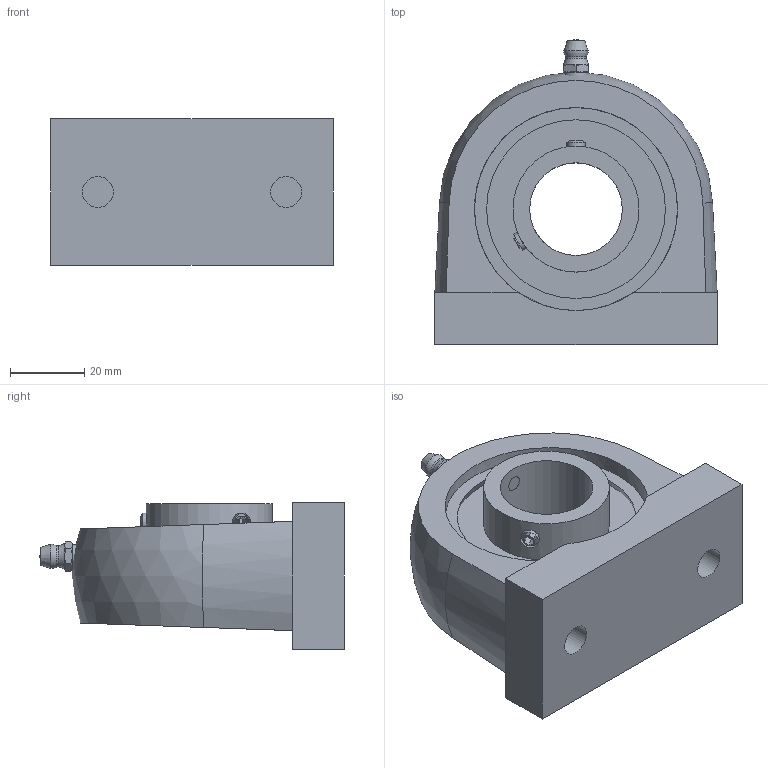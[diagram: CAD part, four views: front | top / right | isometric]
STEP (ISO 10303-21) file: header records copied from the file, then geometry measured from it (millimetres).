
FILE_DESCRIPTION(/* description */ (''),/* implementation_level */ '2;1');
FILE_NAME(/* name */ 'C:\Users\UGijyutu_200702\Desktop\77.プラスチックハウジング\MBTBL200V\MBTBL200V\MBTBL205V.stp',/* time_stamp */ '2024-05-28T11:32:19+09:00',/* author */ ('UGijyutu_200702'),/* organization */ (''),/* preprocessor_version */ 'ST-DEVELOPER v18',/* originating_system */ 'Autodesk Inventor 2020',/* authorisation */ '');
FILE_SCHEMA (('AUTOMOTIVE_DESIGN { 1 0 10303 214 3 1 1 }'));
Length unit declared in the file: millimetre
Products named in the file (4): MBTBL205V; TBL205; MB5 V; 1/4-28UNF-2A
Assembly tree (3 placements, depth 2):
  MBTBL205V
    TBL205
    MB5 V
    1/4-28UNF-2A
Bounding box: 76.2 x 82.3 x 39.5 mm (x, y, z)
Volume: 111846.2 mm3; surface area: 29276.1 mm2
Topology: 3 solids, 3 shells, 85 faces, 213 edges, 145 vertices
Faces by surface type: plane 46, cylinder 17, cone 15, sphere 5, torus 2
Full cylindrical faces by diameter (mm): 3.2 x1, 5 x2, 5.359 x1, 6.35 x1, 8.376 x2, 25 x1, 34 x1, 54.8 x2
Entity records: 2968 total; most frequent: CARTESIAN_POINT 703, DIRECTION 452, ORIENTED_EDGE 424, EDGE_CURVE 212, AXIS2_PLACEMENT_3D 186, VERTEX_POINT 145, EDGE_LOOP 103, FACE_OUTER_BOUND 85
